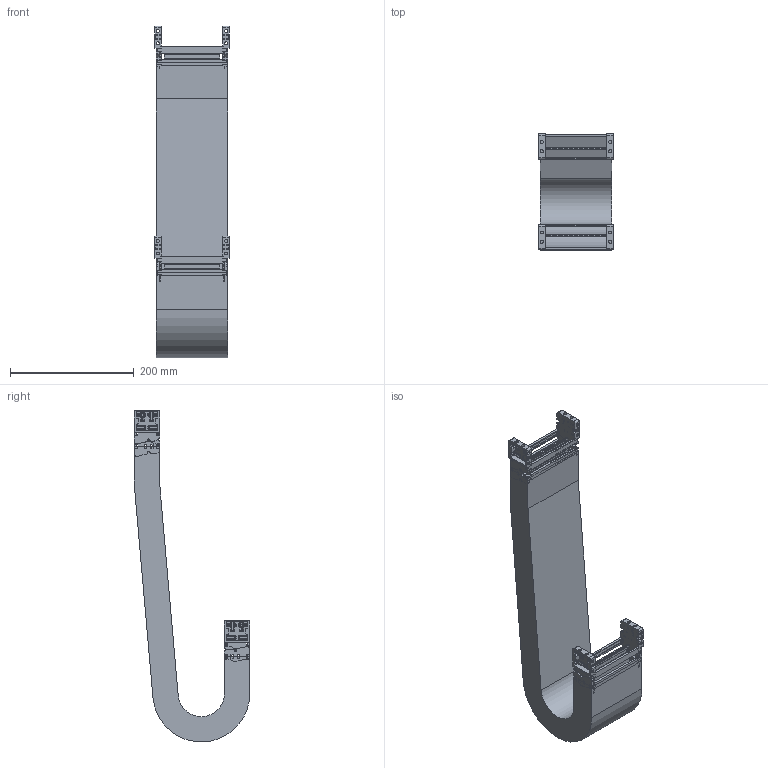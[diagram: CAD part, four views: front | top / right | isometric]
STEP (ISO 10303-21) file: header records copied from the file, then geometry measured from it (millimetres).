
FILE_DESCRIPTION((''),'2;1');
FILE_NAME('KST-30100-055_ASM','2017-12-06T',('KUNI004K'),(''),'PRO/ENGINEER BY PARAMETRIC TECHNOLOGY CORPORATION, 2015200','PRO/ENGINEER BY PARAMETRIC TECHNOLOGY CORPORATION, 2015200','');
FILE_SCHEMA(('AUTOMOTIVE_DESIGN { 1 0 10303 214 1 1 1 1 }'));
Length unit declared in the file: millimetre
Products named in the file (13): 30FBR; 30FBL; 25100C; 30FB_W100_ASM; 30055R; 30055L; 25100H; KST30100-055_1_ASM; KST30100_R55_BODY; 30MBR; 30MBL; 30MB_W100_ASM; KST-30100-055_ASM
Assembly tree (19 placements, depth 3):
  KST-30100-055_ASM
    30FB_W100_ASM
      30FBR
      30FBL
      25100C  x2
    KST30100-055_1_ASM  x2
      30055R
      30055L
      25100C
      25100H
    KST30100_R55_BODY
    30MB_W100_ASM
      30MBR
      30MBL
      25100C  x2
Bounding box: 120 x 187 x 537.23 mm (x, y, z)
Volume: 1188821.4 mm3; surface area: 590041.3 mm2
Topology: 21 solids, 21 shells, 2804 faces, 7774 edges, 5032 vertices
Faces by surface type: plane 1466, cylinder 994, bspline 216, torus 64, sphere 64
Entity records: 72708 total; most frequent: CARTESIAN_POINT 14964, ORIENTED_EDGE 7824, DIRECTION 6978, PRESENTATION_STYLE_ASSIGNMENT 5304, STYLED_ITEM 5304, CURVE_STYLE 3912, EDGE_CURVE 3912, VERTEX_POINT 2556
